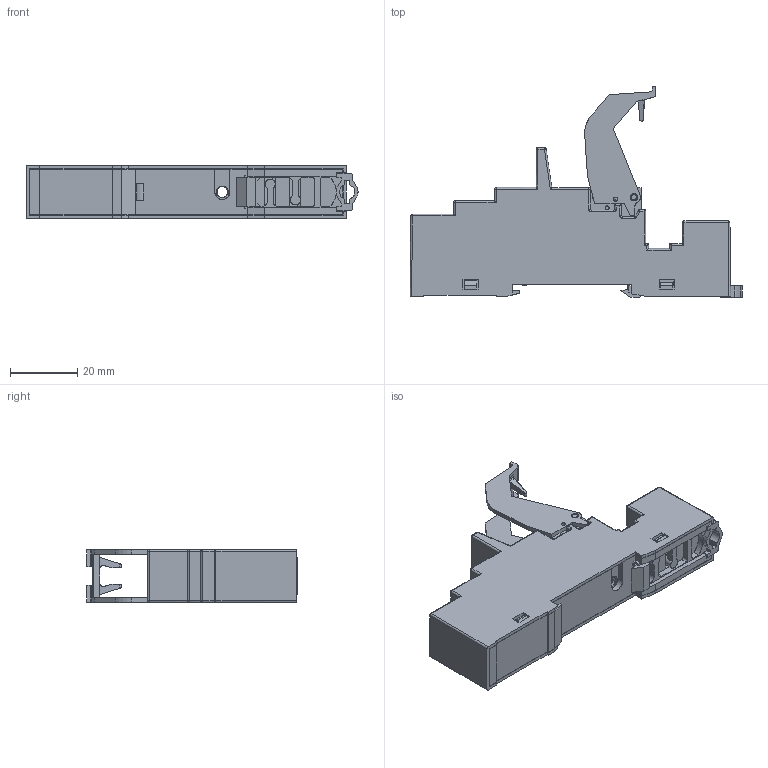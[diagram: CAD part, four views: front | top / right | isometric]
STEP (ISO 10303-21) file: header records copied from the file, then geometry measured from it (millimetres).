
FILE_DESCRIPTION(('STEP AP214'),'2;1');
FILE_NAME('9752+09701.stp','2010-09-28T16:56:21',(''),(''),'2007.1.106','THINKDESIGN','');
FILE_SCHEMA(('AUTOMOTIVE_DESIGN'));
Products named in the file (1): None
Bounding box: 99 x 62.89 x 15.8 mm (x, y, z)
Surface area: 25918 mm2 (no closed solid volume)
Topology: 0 solids, 0 shells, 964 faces, 5332 edges, 5284 vertices
Faces by surface type: plane 692, cylinder 225, bspline 47
Full cylindrical faces by diameter (mm): 1.2 x6, 2 x2, 2.2 x2, 3 x2
Entity records: 56632 total; most frequent: CARTESIAN_POINT 17339, DIRECTION 6964, COMPOSITE_CURVE_SEGMENT 5301, TRIMMED_CURVE 4728, VECTOR 4350, LINE 4350, AXIS2_PLACEMENT_3D 1307, OUTER_BOUNDARY_CURVE 964
